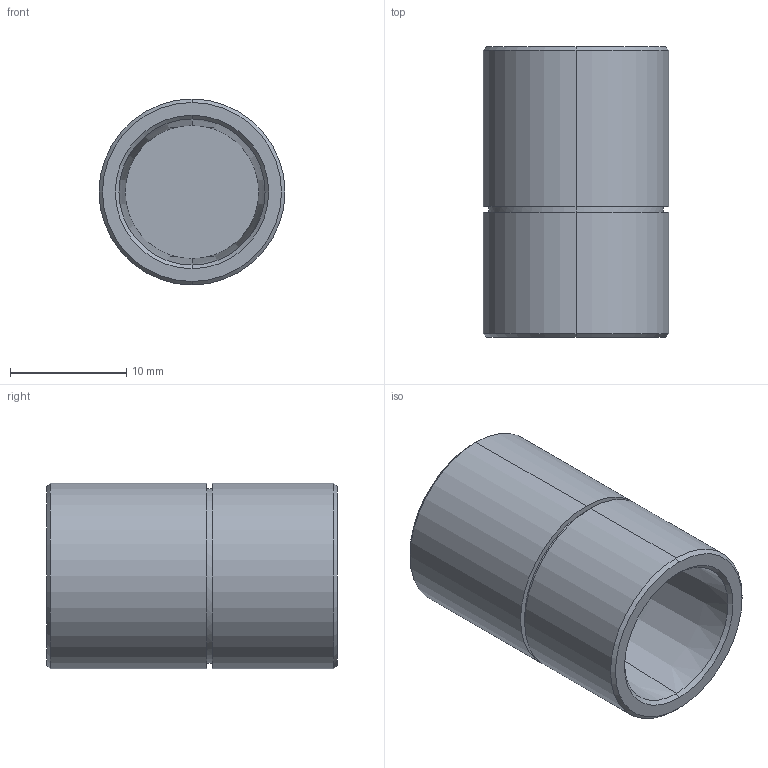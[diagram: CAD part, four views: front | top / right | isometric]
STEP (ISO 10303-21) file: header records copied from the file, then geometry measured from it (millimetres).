
FILE_DESCRIPTION (( 'STEP AP203' ), '1' );
FILE_NAME ('SW-PB-F456-T.STEP', '2022-04-15T06:51:36', ( '' ), ( '' ), 'SwSTEP 2.0', 'SolidWorks 2015', '' );
FILE_SCHEMA (( 'CONFIG_CONTROL_DESIGN' ));
Length unit declared in the file: millimetre
Products named in the file (2): SW-PB-F456-T
Bounding box: 16 x 25 x 16 mm (x, y, z)
Volume: 3752.7 mm3; surface area: 2077.7 mm2
Topology: 1 solids, 1 shells, 19 faces, 36 edges, 22 vertices
Faces by surface type: cone 8, cylinder 6, plane 5
Entity records: 727 total; most frequent: CARTESIAN_POINT 179, DIRECTION 92, ORIENTED_EDGE 72, AXIS2_PLACEMENT_3D 39, EDGE_CURVE 36, VERTEX_POINT 22, EDGE_LOOP 22, ADVANCED_FACE 19
